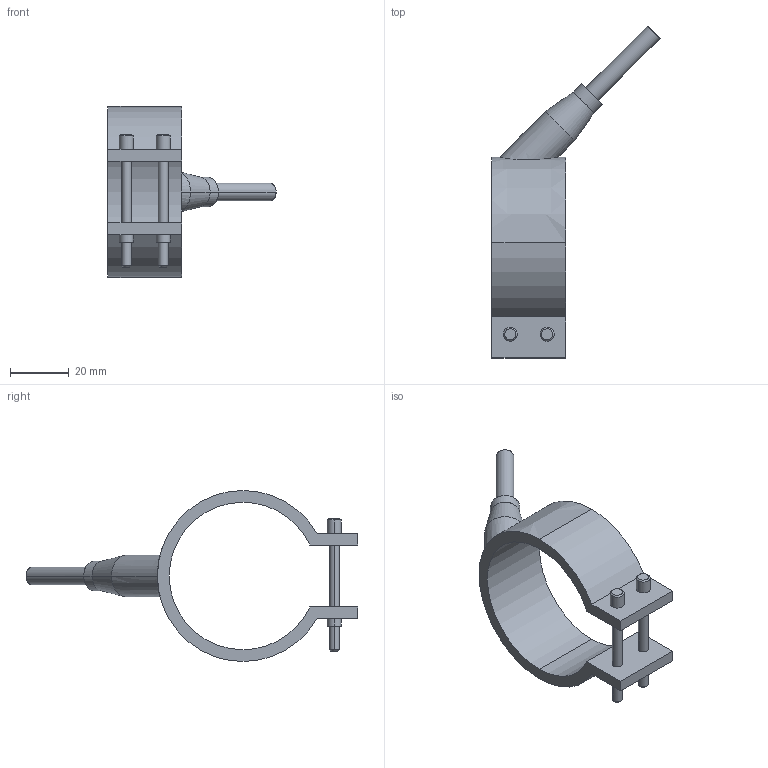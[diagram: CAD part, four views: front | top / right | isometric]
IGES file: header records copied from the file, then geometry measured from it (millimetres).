
Start section: START RECORD GO HERE.
Global section: file name: 29050025.igs; native system: DASSAULT SYSTEMES CATIA V5 R20 - www.3ds.com; preprocessor: CATIA Version 5 Release 20 ; author: Utente; organization: NB04-ASUS; date: 20210327.103227; units: millimetre
Bounding box: 57.05 x 112.55 x 58 mm (x, y, z)
Surface area: 12737.2 mm2 (no closed solid volume)
Topology: 0 solids, 0 shells, 54 faces, 248 edges, 248 vertices
Faces by surface type: revolution 38, plane 16
